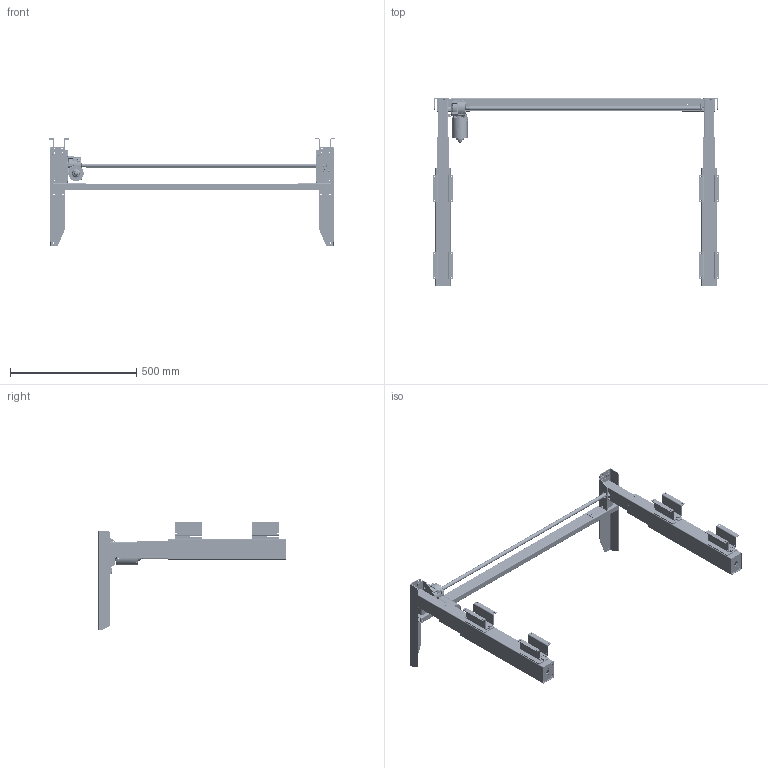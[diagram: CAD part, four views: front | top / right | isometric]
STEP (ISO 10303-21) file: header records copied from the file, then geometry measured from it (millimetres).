
FILE_DESCRIPTION (( 'STEP AP214' ), '1' );
FILE_NAME ('Tech-draw_501-39_XX112.STEP', '2024-09-11T10:49:48', ( '' ), ( '' ), 'SwSTEP 2.0', 'SolidWorks 2023', '' );
FILE_SCHEMA (( 'AUTOMOTIVE_DESIGN' ));
Length unit declared in the file: millimetre
Products named in the file (106): 315360_Ingen kontaktarm; 305710; 361550; 361560; 314130; 341000_lower; 341800; 340990_Down, bench, right; 346840; 342990; 356120; 333180; 345930; 160600; 321140.; 342310; 134800; 340430; 346890; 347910_112; 141320_DOWN; 333420; 356850; 342310_silver; 135010; 361540; 160620_Rendering; 346190_White; 341810; 142920_Shell view; 359090; 340180; 321760; 340560; 347920_112; 322990; 356130; 303750; 321260; 306980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
Assembly tree (306 placements, depth 7):
  Tech-draw_501-39_XX112
    347910_112
    144260_112
      347920_112
      340560
      341220
    161150_Shell view
      361530
      361570  x2
      160630  x2
        361550
        361560
      160590_Shell view
        342310  x8
        341800  x10
        341800_silver  x6
        346910
        356120
        160560
          361520
          356850
        160580
          356130
          346640
          346330_White
          346200  x2
          346190_White
          345000
        142910_shell view
          346140
          600470
          320130
          142920_Shell view
            142800_rubber direction a
              321180
              321140.
            321190
            321840
            335380
            134750
              336230.
              340430
            321260  x2
            135010
              339870
            346890
            335900_Assembly  x3
            341330
          321150
          301890
          315360_Ingen kontaktarm
          325430
          311580  x3
          333420  x2
          321840
          142850_shell view
            346830
            346840
          346790  x2
          346800
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Bounding box: 1133.9 x 742.65 x 426.4 mm (x, y, z)
Volume: 2573926.1 mm3; surface area: 2661582.2 mm2
Topology: 288 solids, 288 shells, 13237 faces, 34662 edges, 22759 vertices
Faces by surface type: plane 6443, cylinder 4726, bspline 1321, cone 388, torus 316, sphere 43
Full cylindrical faces by diameter (mm): 1.2 x2, 1.5 x1, 1.8 x1, 1.9 x3, 2 x12, 2.2 x1, 2.3 x1, 2.4 x489, 2.5 x4, 2.9 x2, 3 x41, 3.1 x2, 3.2 x2, 3.3 x10, 3.5 x2, 3.6 x1, 4 x28, 4.1 x1, 4.2 x6, 4.3 x1, 4.5 x6, 4.6 x4, 4.95 x122, 4.98 x1, 5 x55, 5.05 x4, 5.2 x1, 5.5 x18, 5.6 x2, 5.7 x1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
Entity records: 316096 total; most frequent: CARTESIAN_POINT 137229, ORIENTED_EDGE 39234, DIRECTION 31821, EDGE_CURVE 19617, VERTEX_POINT 12995, AXIS2_PLACEMENT_3D 11285, VECTOR 9251, LINE 9251
